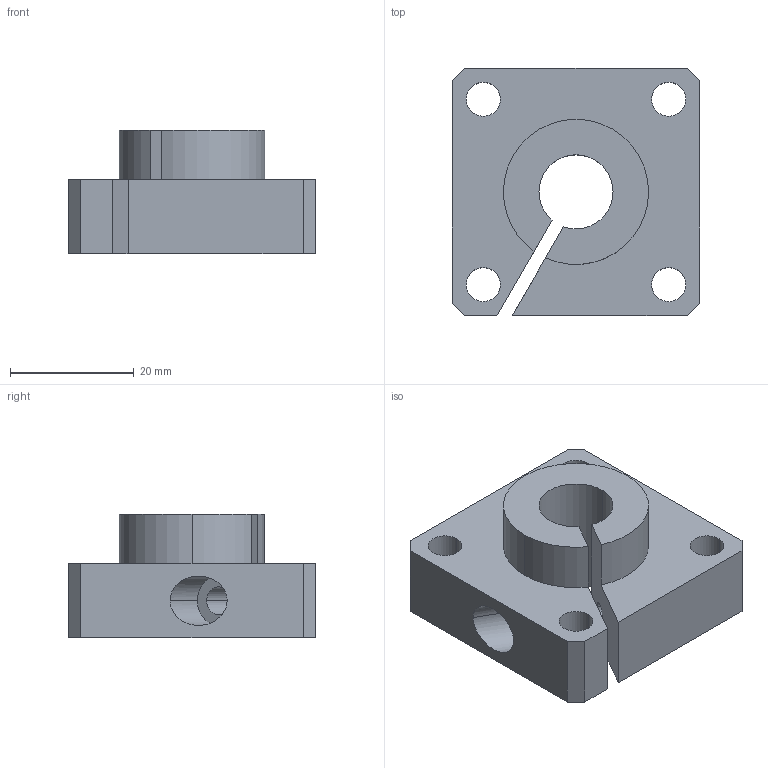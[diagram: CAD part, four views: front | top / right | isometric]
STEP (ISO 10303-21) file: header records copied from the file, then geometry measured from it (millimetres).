
FILE_DESCRIPTION (( 'STEP AP214' ), '1' );
FILE_NAME ('KFWB56-12.step', '2020-03-04T13:40:22', ( '' ), ( '' ), 'SwSTEP 2.0', 'SolidWorks 2019', '' );
FILE_SCHEMA (( 'AUTOMOTIVE_DESIGN' ));
Length unit declared in the file: millimetre
Products named in the file (1): KFWB56-12
Bounding box: 40 x 40 x 20 mm (x, y, z)
Volume: 18025.6 mm3; surface area: 7558.1 mm2
Topology: 1 solids, 1 shells, 37 faces, 100 edges, 65 vertices
Faces by surface type: cylinder 20, plane 15, cone 2
Entity records: 1238 total; most frequent: DIRECTION 210, CARTESIAN_POINT 207, ORIENTED_EDGE 196, EDGE_CURVE 98, AXIS2_PLACEMENT_3D 76, VERTEX_POINT 65, VECTOR 58, LINE 58
